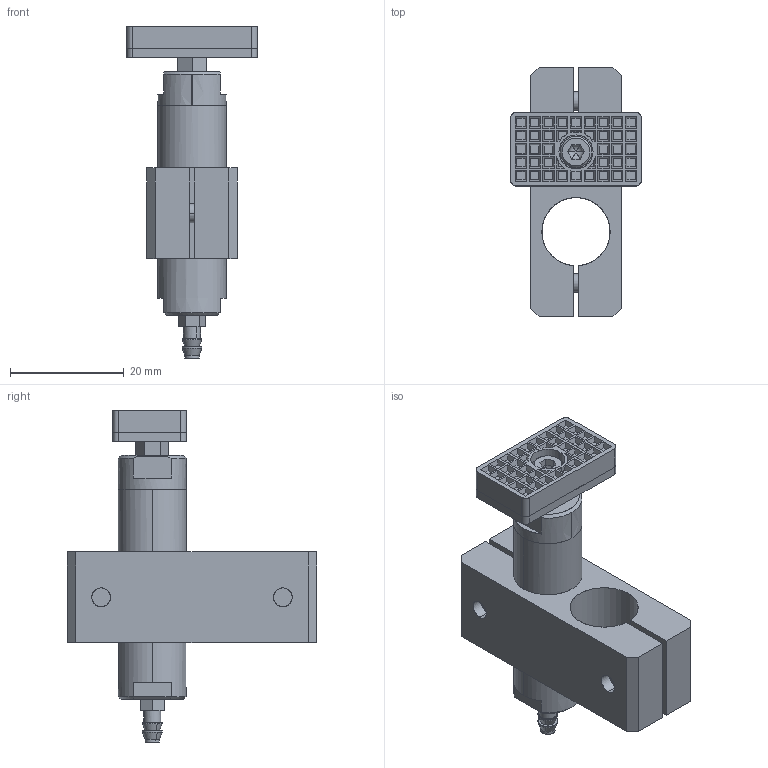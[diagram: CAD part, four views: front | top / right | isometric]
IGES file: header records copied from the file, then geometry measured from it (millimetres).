
Start section: SolidWorks IGES file using analytic representation for surfaces
Global section: file name: E:\EFCKishi\シリンダー\JGM\IGES\JGM-001.IGS; native system: SolidWorks 2006 by SolidWorks Corporation; preprocessor: SolidWorks 2006 by SolidWorks Corporation; author: CAD58; date: 080912.172944; units: millimetre
Bounding box: 23 x 44 x 58.5 mm (x, y, z)
Surface area: 12893.2 mm2 (no closed solid volume)
Topology: 0 solids, 0 shells, 540 faces, 5246 edges, 5226 vertices
Faces by surface type: bspline 386, revolution 154
